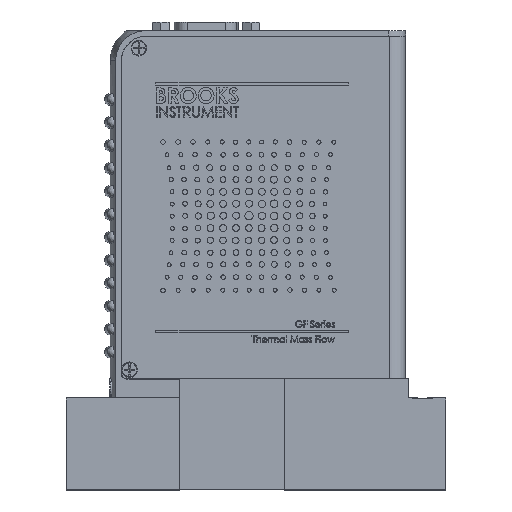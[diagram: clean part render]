
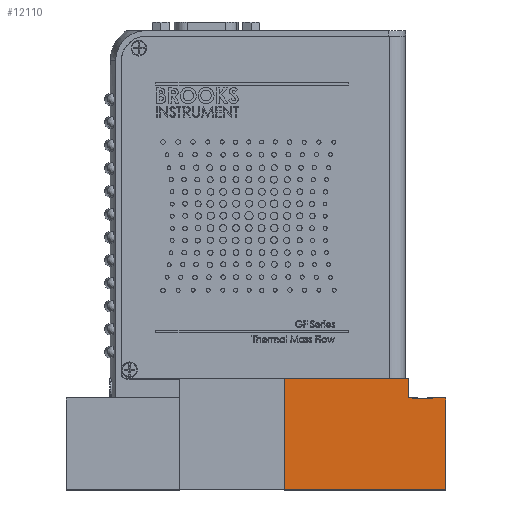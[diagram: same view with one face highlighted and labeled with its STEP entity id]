
A CAD part, top view. The second image highlights one B-rep face of the part: STEP entity #12110.
In plain terms, the highlighted planar face has unit normal (0, 0, 1).
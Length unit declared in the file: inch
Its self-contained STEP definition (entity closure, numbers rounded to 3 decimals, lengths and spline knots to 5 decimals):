
#395 = LINE ( 'NONE', #17580, #76886 ) ;
#1533 = EDGE_LOOP ( 'NONE', ( #110839, #51191, #31294, #5250, #68560, #56760, #108311, #111363, #9718, #31890 ) ) ;
#2875 = CARTESIAN_POINT ( 'NONE',  ( 1.29059, 0.88108, 0.56 ) ) ;
#3629 = DIRECTION ( 'NONE',  ( 0., 0., -1. ) ) ;
#5250 = ORIENTED_EDGE ( 'NONE', *, *, #46641, .T. ) ;
#5681 = CARTESIAN_POINT ( 'NONE',  ( -0.31907, 1.08808, 0.56 ) ) ;
#7352 = CARTESIAN_POINT ( 'NONE',  ( 1.43493, 0.88108, 0.56 ) ) ;
#9718 = ORIENTED_EDGE ( 'NONE', *, *, #12847, .F. ) ;
#12019 = EDGE_CURVE ( 'NONE', #97980, #110771, #101850, .T. ) ;
#12110 = ADVANCED_FACE ( 'NONE', ( #35904 ), #105808, .F. ) ;
#12338 = CARTESIAN_POINT ( 'NONE',  ( 1.07127, 0.88108, 0.56 ) ) ;
#12847 = EDGE_CURVE ( 'NONE', #97980, #52264, #21669, .T. ) ;
#14182 = DIRECTION ( 'NONE',  ( 0., -1., 0. ) ) ;
#16567 = EDGE_CURVE ( 'NONE', #52264, #80965, #50805, .T. ) ;
#17580 = CARTESIAN_POINT ( 'NONE',  ( -0.31907, -0.11892, 0.56 ) ) ;
#21669 = LINE ( 'NONE', #71598, #30101 ) ;
#22305 = LINE ( 'NONE', #7352, #35177 ) ;
#25157 = VERTEX_POINT ( 'NONE', #111826 ) ;
#27075 = DIRECTION ( 'NONE',  ( 1., 0., 0. ) ) ;
#29358 = VECTOR ( 'NONE', #72261, 39.37008 ) ;
#29614 = EDGE_CURVE ( 'NONE', #49713, #103138, #38088, .T. ) ;
#30101 = VECTOR ( 'NONE', #54970, 39.37008 ) ;
#31294 = ORIENTED_EDGE ( 'NONE', *, *, #88088, .F. ) ;
#31890 = ORIENTED_EDGE ( 'NONE', *, *, #12019, .T. ) ;
#32284 = VECTOR ( 'NONE', #63800, 39.37008 ) ;
#33679 = DIRECTION ( 'NONE',  ( 1., 0., 0. ) ) ;
#34172 = AXIS2_PLACEMENT_3D ( 'NONE', #90772, #3629, #109615 ) ;
#34810 = VECTOR ( 'NONE', #33679, 39.37008 ) ;
#35177 = VECTOR ( 'NONE', #83635, 39.37008 ) ;
#35904 = FACE_OUTER_BOUND ( 'NONE', #1533, .T. ) ;
#38088 = LINE ( 'NONE', #107416, #105390 ) ;
#44199 = LINE ( 'NONE', #106071, #29358 ) ;
#46641 = EDGE_CURVE ( 'NONE', #25157, #88403, #57518, .T. ) ;
#49120 = CARTESIAN_POINT ( 'NONE',  ( 1.02593, 1.08808, 0.56 ) ) ;
#49477 = CARTESIAN_POINT ( 'NONE',  ( 1.02593, 0.88108, 0.56 ) ) ;
#49713 = VERTEX_POINT ( 'NONE', #66105 ) ;
#50805 = LINE ( 'NONE', #78287, #32284 ) ;
#51191 = ORIENTED_EDGE ( 'NONE', *, *, #29614, .T. ) ;
#52264 = VERTEX_POINT ( 'NONE', #96180 ) ;
#52310 = LINE ( 'NONE', #70631, #101778 ) ;
#54970 = DIRECTION ( 'NONE',  ( 1., 0., 0. ) ) ;
#56760 = ORIENTED_EDGE ( 'NONE', *, *, #89324, .T. ) ;
#57518 = LINE ( 'NONE', #49477, #81857 ) ;
#58251 = VERTEX_POINT ( 'NONE', #5681 ) ;
#60010 = DIRECTION ( 'NONE',  ( 1., 0., 0. ) ) ;
#60056 = CARTESIAN_POINT ( 'NONE',  ( -0.31907, 0.87108, 0.56 ) ) ;
#62004 = CARTESIAN_POINT ( 'NONE',  ( 1.43493, -0.11892, 0.56 ) ) ;
#62806 = EDGE_CURVE ( 'NONE', #100013, #80965, #395, .T. ) ;
#63800 = DIRECTION ( 'NONE',  ( 0., -1., 0. ) ) ;
#65551 = DIRECTION ( 'NONE',  ( 0., 1., 0. ) ) ;
#66105 = CARTESIAN_POINT ( 'NONE',  ( 1.07127, 0.87108, 0.56 ) ) ;
#68560 = ORIENTED_EDGE ( 'NONE', *, *, #70649, .F. ) ;
#68935 = VECTOR ( 'NONE', #14182, 39.37008 ) ;
#70631 = CARTESIAN_POINT ( 'NONE',  ( -0.31907, 1.08808, 0.56 ) ) ;
#70649 = EDGE_CURVE ( 'NONE', #58251, #88403, #52310, .T. ) ;
#71598 = CARTESIAN_POINT ( 'NONE',  ( 1.43493, 0.88108, 0.56 ) ) ;
#72261 = DIRECTION ( 'NONE',  ( 0., -1., 0. ) ) ;
#76063 = CARTESIAN_POINT ( 'NONE',  ( 1.29059, 0.87108, 0.56 ) ) ;
#76886 = VECTOR ( 'NONE', #60010, 39.37008 ) ;
#78287 = CARTESIAN_POINT ( 'NONE',  ( 1.43493, 1.08808, 0.56 ) ) ;
#80965 = VERTEX_POINT ( 'NONE', #62004 ) ;
#81642 = DIRECTION ( 'NONE',  ( 0., 1., 0. ) ) ;
#81857 = VECTOR ( 'NONE', #65551, 39.37008 ) ;
#83635 = DIRECTION ( 'NONE',  ( 1., 0., 0. ) ) ;
#88088 = EDGE_CURVE ( 'NONE', #25157, #103138, #22305, .T. ) ;
#88403 = VERTEX_POINT ( 'NONE', #49120 ) ;
#89324 = EDGE_CURVE ( 'NONE', #58251, #100013, #44199, .T. ) ;
#90772 = CARTESIAN_POINT ( 'NONE',  ( -0.31907, 1.08808, 0.56 ) ) ;
#96180 = CARTESIAN_POINT ( 'NONE',  ( 1.43493, 0.88108, 0.56 ) ) ;
#97980 = VERTEX_POINT ( 'NONE', #2875 ) ;
#100013 = VERTEX_POINT ( 'NONE', #111267 ) ;
#101778 = VECTOR ( 'NONE', #27075, 39.37008 ) ;
#101850 = LINE ( 'NONE', #76063, #68935 ) ;
#103138 = VERTEX_POINT ( 'NONE', #12338 ) ;
#105390 = VECTOR ( 'NONE', #81642, 39.37008 ) ;
#105808 = PLANE ( 'NONE',  #34172 ) ;
#106071 = CARTESIAN_POINT ( 'NONE',  ( -0.31907, 1.08808, 0.56 ) ) ;
#107416 = CARTESIAN_POINT ( 'NONE',  ( 1.07127, 0.87108, 0.56 ) ) ;
#108311 = ORIENTED_EDGE ( 'NONE', *, *, #62806, .T. ) ;
#109615 = DIRECTION ( 'NONE',  ( -1., 0., 0. ) ) ;
#110771 = VERTEX_POINT ( 'NONE', #111103 ) ;
#110839 = ORIENTED_EDGE ( 'NONE', *, *, #112802, .F. ) ;
#111103 = CARTESIAN_POINT ( 'NONE',  ( 1.29059, 0.87108, 0.56 ) ) ;
#111267 = CARTESIAN_POINT ( 'NONE',  ( -0.31907, -0.11892, 0.56 ) ) ;
#111363 = ORIENTED_EDGE ( 'NONE', *, *, #16567, .F. ) ;
#111826 = CARTESIAN_POINT ( 'NONE',  ( 1.02593, 0.88108, 0.56 ) ) ;
#112203 = LINE ( 'NONE', #60056, #34810 ) ;
#112802 = EDGE_CURVE ( 'NONE', #49713, #110771, #112203, .T. ) ;
